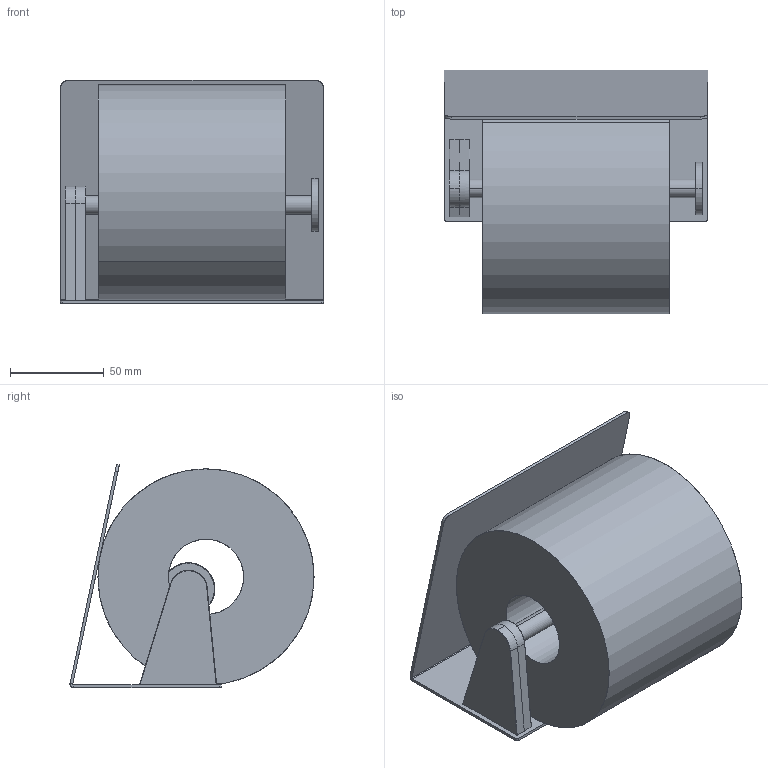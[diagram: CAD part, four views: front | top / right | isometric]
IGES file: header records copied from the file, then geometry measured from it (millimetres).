
Start section: SolidWorks IGES file using analytic representation for surfaces
Global section: file name: G:\Projects\New project\For Marketing\IGS\IGS\2015-12-11\364005002VW.IGS; native system: SolidWorks 2010; preprocessor: SolidWorks 2010; author: linda; date: 151203.143204; units: millimetre
Bounding box: 140 x 129.89 x 118.94 mm (x, y, z)
Surface area: 134110.6 mm2 (no closed solid volume)
Topology: 0 solids, 0 shells, 85 faces, 1168 edges, 1168 vertices
Faces by surface type: bspline 44, revolution 41
